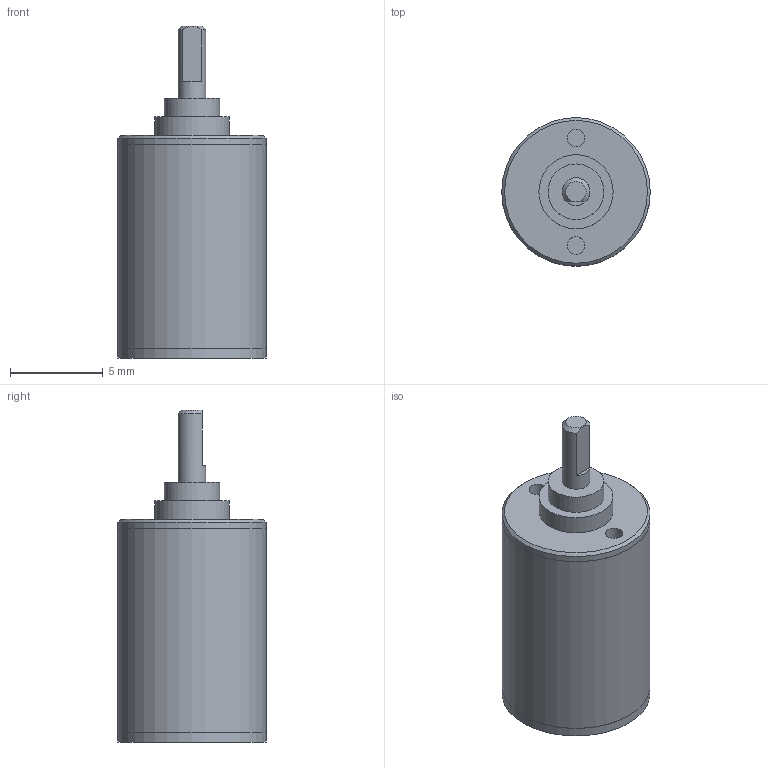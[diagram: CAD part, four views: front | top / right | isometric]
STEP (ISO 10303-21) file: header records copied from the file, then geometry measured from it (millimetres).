
FILE_DESCRIPTION(/* description */ (''),/* implementation_level */ '2;1');
FILE_NAME(/* name */ '08-2_2.stp',/* time_stamp */ '2016-08-23T14:00:18+02:00',/* author */ ('DR. FRITZ FAULHABER GmbH & Co. KG'),/* organization */ ('DR. FRITZ FAULHABER GmbH & Co. KG'),/* preprocessor_version */ 'ST-DEVELOPER v16',/* originating_system */ 'SIEMENS PLM Software NX 10.0',/* authorisation */ '');
FILE_SCHEMA (('AUTOMOTIVE_DESIGN { 1 0 10303 214 3 1 1 1 }'));
Length unit declared in the file: millimetre
Products named in the file (1): H00000388_A
Bounding box: 8 x 8 x 17.9 mm (x, y, z)
Volume: 549.4 mm3; surface area: 516.4 mm2
Topology: 1 solids, 1 shells, 33 faces, 56 edges, 37 vertices
Faces by surface type: plane 16, cylinder 14, cone 3
Full cylindrical faces by diameter (mm): 0.95 x2, 1.5 x1, 2.13 x1, 2.53 x1, 3 x1, 4 x1, 4.959 x1, 6 x1, 7.99 x2, 8 x3
Entity records: 709 total; most frequent: DIRECTION 133, CARTESIAN_POINT 115, ORIENTED_EDGE 72, AXIS2_PLACEMENT_3D 65, EDGE_LOOP 61, FACE_BOUND 54, EDGE_CURVE 36, ADVANCED_FACE 33
